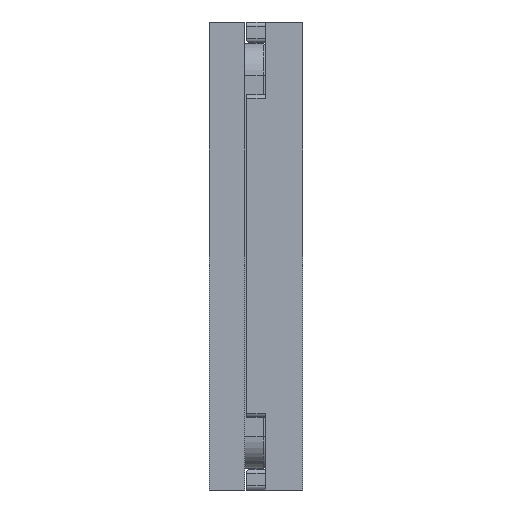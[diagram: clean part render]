
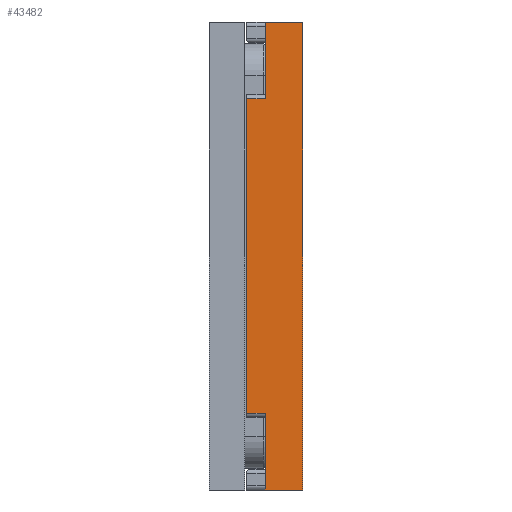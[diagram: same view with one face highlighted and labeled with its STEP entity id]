
A CAD part, left-side view. The second image highlights one B-rep face of the part: STEP entity #43482.
In plain terms, the highlighted planar face has unit normal (-1, 0, 0).
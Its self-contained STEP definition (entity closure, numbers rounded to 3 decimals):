
#53 = DIRECTION ( 'NONE',  ( 0., -1., 0. ) ) ;
#212 = VERTEX_POINT ( 'NONE', #28464 ) ;
#732 = LINE ( 'NONE', #31179, #9758 ) ;
#1216 = VERTEX_POINT ( 'NONE', #47206 ) ;
#1521 = ORIENTED_EDGE ( 'NONE', *, *, #47870, .F. ) ;
#1686 = CARTESIAN_POINT ( 'NONE',  ( -275., 27., 75.5 ) ) ;
#2340 = ORIENTED_EDGE ( 'NONE', *, *, #26634, .T. ) ;
#6369 = DIRECTION ( 'NONE',  ( 0., 0., 1. ) ) ;
#7323 = VECTOR ( 'NONE', #20422, 1000. ) ;
#7528 = VECTOR ( 'NONE', #32380, 1000. ) ;
#9758 = VECTOR ( 'NONE', #15586, 1000. ) ;
#9928 = CARTESIAN_POINT ( 'NONE',  ( -275., 18., -112.5 ) ) ;
#11511 = VERTEX_POINT ( 'NONE', #33357 ) ;
#11613 = VERTEX_POINT ( 'NONE', #23386 ) ;
#11805 = DIRECTION ( 'NONE',  ( 0., 0., 1. ) ) ;
#12013 = ORIENTED_EDGE ( 'NONE', *, *, #25611, .F. ) ;
#12868 = AXIS2_PLACEMENT_3D ( 'NONE', #42981, #28387, #36394 ) ;
#13277 = PLANE ( 'NONE',  #12868 ) ;
#14169 = ORIENTED_EDGE ( 'NONE', *, *, #35128, .T. ) ;
#14812 = VERTEX_POINT ( 'NONE', #16766 ) ;
#15586 = DIRECTION ( 'NONE',  ( 0., -1., 0. ) ) ;
#16766 = CARTESIAN_POINT ( 'NONE',  ( -275., 18., 112.5 ) ) ;
#17794 = LINE ( 'NONE', #43586, #28669 ) ;
#17959 = ORIENTED_EDGE ( 'NONE', *, *, #24685, .T. ) ;
#18566 = LINE ( 'NONE', #33407, #24660 ) ;
#20399 = EDGE_LOOP ( 'NONE', ( #12013, #14169, #27187, #17959, #2340, #46260, #1521, #28785 ) ) ;
#20422 = DIRECTION ( 'NONE',  ( 0., 1., 0. ) ) ;
#20611 = FACE_OUTER_BOUND ( 'NONE', #20399, .T. ) ;
#20638 = EDGE_CURVE ( 'NONE', #41923, #11511, #35280, .T. ) ;
#20941 = LINE ( 'NONE', #21174, #7528 ) ;
#21174 = CARTESIAN_POINT ( 'NONE',  ( -275., 18., -112.5 ) ) ;
#23011 = EDGE_CURVE ( 'NONE', #14812, #11613, #18566, .T. ) ;
#23386 = CARTESIAN_POINT ( 'NONE',  ( -275., 0., 112.5 ) ) ;
#23467 = CARTESIAN_POINT ( 'NONE',  ( -275., 0., -112.5 ) ) ;
#23674 = LINE ( 'NONE', #38500, #30956 ) ;
#24660 = VECTOR ( 'NONE', #53, 1000. ) ;
#24685 = EDGE_CURVE ( 'NONE', #44196, #42550, #732, .T. ) ;
#25611 = EDGE_CURVE ( 'NONE', #212, #11511, #43840, .T. ) ;
#26634 = EDGE_CURVE ( 'NONE', #42550, #11613, #41765, .T. ) ;
#27187 = ORIENTED_EDGE ( 'NONE', *, *, #27222, .F. ) ;
#27222 = EDGE_CURVE ( 'NONE', #44196, #1216, #20941, .T. ) ;
#27417 = CARTESIAN_POINT ( 'NONE',  ( -275., 0., -112.5 ) ) ;
#27554 = DIRECTION ( 'NONE',  ( 0., -1., 0. ) ) ;
#28387 = DIRECTION ( 'NONE',  ( 1., 0., 0. ) ) ;
#28464 = CARTESIAN_POINT ( 'NONE',  ( -275., 27., -75.5 ) ) ;
#28669 = VECTOR ( 'NONE', #43356, 1000. ) ;
#28785 = ORIENTED_EDGE ( 'NONE', *, *, #20638, .T. ) ;
#30956 = VECTOR ( 'NONE', #27554, 1000. ) ;
#31179 = CARTESIAN_POINT ( 'NONE',  ( -275., 27., -112.5 ) ) ;
#31387 = CARTESIAN_POINT ( 'NONE',  ( -275., 18., 75.5 ) ) ;
#32380 = DIRECTION ( 'NONE',  ( 0., 0., 1. ) ) ;
#32437 = VECTOR ( 'NONE', #6369, 1000. ) ;
#33357 = CARTESIAN_POINT ( 'NONE',  ( -275., 27., 75.5 ) ) ;
#33407 = CARTESIAN_POINT ( 'NONE',  ( -275., 27., 112.5 ) ) ;
#35128 = EDGE_CURVE ( 'NONE', #212, #1216, #23674, .T. ) ;
#35280 = LINE ( 'NONE', #1686, #7323 ) ;
#36394 = DIRECTION ( 'NONE',  ( 0., 0., -1. ) ) ;
#38500 = CARTESIAN_POINT ( 'NONE',  ( -275., 27., -75.5 ) ) ;
#39386 = VECTOR ( 'NONE', #11805, 1000. ) ;
#41765 = LINE ( 'NONE', #27417, #39386 ) ;
#41923 = VERTEX_POINT ( 'NONE', #31387 ) ;
#42550 = VERTEX_POINT ( 'NONE', #23467 ) ;
#42981 = CARTESIAN_POINT ( 'NONE',  ( -275., 27., -112.5 ) ) ;
#43356 = DIRECTION ( 'NONE',  ( 0., 0., 1. ) ) ;
#43482 = ADVANCED_FACE ( 'NONE', ( #20611 ), #13277, .F. ) ;
#43586 = CARTESIAN_POINT ( 'NONE',  ( -275., 18., 112.5 ) ) ;
#43840 = LINE ( 'NONE', #47035, #32437 ) ;
#44196 = VERTEX_POINT ( 'NONE', #9928 ) ;
#46260 = ORIENTED_EDGE ( 'NONE', *, *, #23011, .F. ) ;
#47035 = CARTESIAN_POINT ( 'NONE',  ( -275., 27., -112.5 ) ) ;
#47206 = CARTESIAN_POINT ( 'NONE',  ( -275., 18., -75.5 ) ) ;
#47870 = EDGE_CURVE ( 'NONE', #41923, #14812, #17794, .T. ) ;
